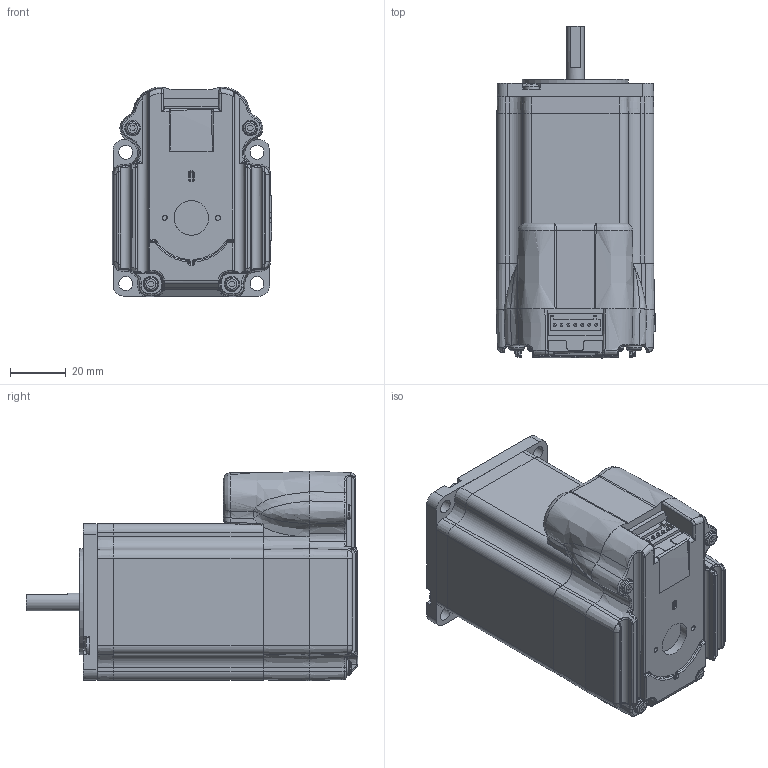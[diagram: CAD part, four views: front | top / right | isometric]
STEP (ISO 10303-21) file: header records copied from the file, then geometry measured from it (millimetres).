
FILE_DESCRIPTION(('MDrive23Plus, Triple Stack, P1 (IO PWR, P) and P2 (RD or RL 10-Pin)'),'1');
FILE_NAME('MDrive23Plus, Triple Stack, P1 (IO PWR, P) and P2 (RD or RL 10-Pin).stp','2009-05-11T15:42:24',('P. Bordua'),('Intelligent Motion Systems, Inc.'),'Spatial Interop R18','Kubotek KeyCreator V8.0.1 (11344)','KC');
FILE_SCHEMA(('automotive_design'));
Length unit declared in the file: inch
Products named in the file (2): MDrive23Plus,  Triple Stack, P1 (IO PWR, P)  and  P2 (RD or RL 10-Pin)[3]
Bounding box: 57.34 x 119.16 x 75.2 mm (x, y, z)
Volume: 308020.5 mm3; surface area: 40016.6 mm2
Topology: 2 solids, 3 shells, 818 faces, 2095 edges, 1304 vertices
Faces by surface type: plane 373, bspline 231, cylinder 124, torus 38, cone 27, sphere 25
Full cylindrical faces by diameter (mm): 1.041 x7, 3.175 x2, 5 x4, 5.563 x4, 5.588 x4, 6.35 x1, 8.001 x1, 10.16 x1, 12.446 x1, 38.1 x1
Entity records: 66478 total; most frequent: CARTESIAN_POINT 23612, PRESENTATION_STYLE_ASSIGNMENT 4884, COLOUR_RGB 4884, STYLED_ITEM 4064, ORIENTED_EDGE 4008, CURVE_STYLE 2824, DRAUGHTING_PRE_DEFINED_CURVE_FONT 2824, DIRECTION 2411
